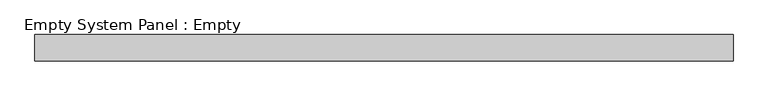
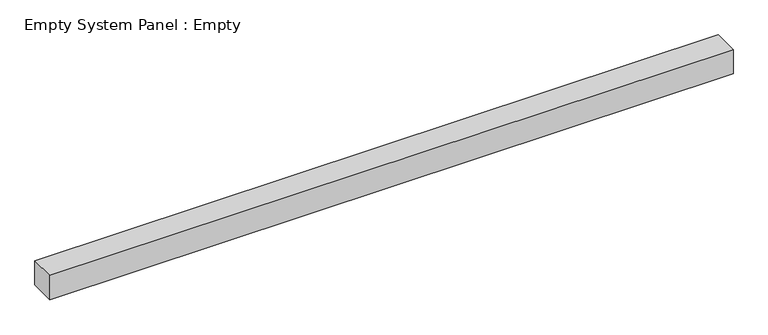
"""IFC4 building model written with IfcOpenShell, lengths in millimetres: plate geometry, Empty System Panel : Empty."""

from ifc_helpers import new_model, si_unit, origin, origin_with_axes, place, context, project, spatial, polyline, outline, extrude, source, transform, mapped, element, save


def empty_system_panel_empty_4742c4bf(model_context):
    return source(origin(), model_context, "Body", "SweptSolid", [
        extrude(outline(polyline([(1332.5, -50.0), (-1332.5, -50.0), (-1332.5, 50.0), (1332.5, 50.0), (1332.5, -50.0)])), origin_with_axes(), (0.0, 0.0, 1.0), 100.0),
    ])


if __name__ == "__main__":
    model = new_model("IFC4")
    model_context = context("Model", 3, world=origin())
    ifc_project = project(units=[si_unit("LENGTHUNIT", "METRE", prefix="MILLI")], contexts=[model_context])
    site = spatial("IfcSite", under=ifc_project)
    building = spatial("IfcBuilding", under=site)
    placement = place(None, origin())
    empty_system_panel_empty_shape = empty_system_panel_empty_4742c4bf(model_context)
    element("IfcPlate", 1, ObjectType="Empty System Panel : Empty", at=placement, inside=building, context=model_context, shape_type="MappedRepresentation", body=[
        mapped(empty_system_panel_empty_shape, transform((0.0, 0.0, 0.0), x_axis=(1.0, 0.0, 0.0), y_axis=(0.0, 1.0, 0.0), z_axis=(0.0, 0.0, 1.0))),
    ])
    save(model, "model.ifc")
